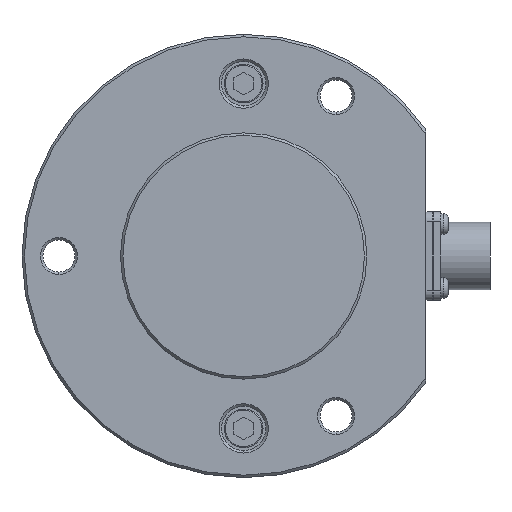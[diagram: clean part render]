
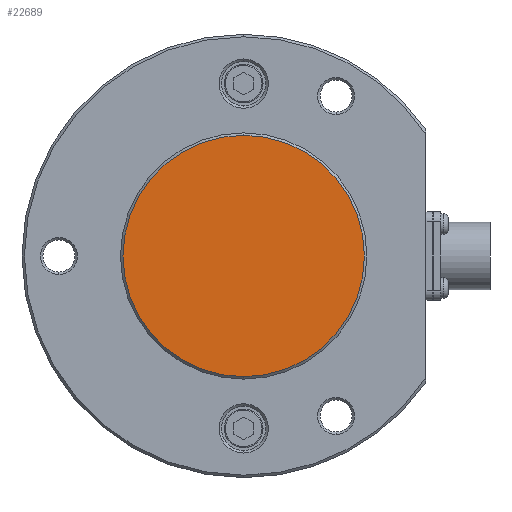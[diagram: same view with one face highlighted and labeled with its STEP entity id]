
A CAD part, front view. The second image highlights one B-rep face of the part: STEP entity #22689.
In plain terms, the highlighted planar face has unit normal (0, -1, 0).
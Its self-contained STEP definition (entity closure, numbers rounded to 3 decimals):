
#1421 = EDGE_LOOP ( 'NONE', ( #18087, #22413 ) ) ;
#3934 = AXIS2_PLACEMENT_3D ( 'NONE', #17234, #15627, #7865 ) ;
#4695 = AXIS2_PLACEMENT_3D ( 'NONE', #9428, #8071, #11276 ) ;
#7865 = DIRECTION ( 'NONE',  ( 0., 0., -1. ) ) ;
#8071 = DIRECTION ( 'NONE',  ( 0., -1., 0. ) ) ;
#8631 = DIRECTION ( 'NONE',  ( 0., -1., 0. ) ) ;
#8709 = VERTEX_POINT ( 'NONE', #13341 ) ;
#9428 = CARTESIAN_POINT ( 'NONE',  ( 0., -33., 0. ) ) ;
#11216 = CARTESIAN_POINT ( 'NONE',  ( 0., -33., 24.5 ) ) ;
#11276 = DIRECTION ( 'NONE',  ( 0., 0., -1. ) ) ;
#11798 = PLANE ( 'NONE',  #3934 ) ;
#13341 = CARTESIAN_POINT ( 'NONE',  ( 0., -33., -24.5 ) ) ;
#13734 = CIRCLE ( 'NONE', #15706, 24.5 ) ;
#13877 = EDGE_CURVE ( 'NONE', #8709, #21306, #15330, .T. ) ;
#15330 = CIRCLE ( 'NONE', #4695, 24.5 ) ;
#15627 = DIRECTION ( 'NONE',  ( 0., -1., 0. ) ) ;
#15706 = AXIS2_PLACEMENT_3D ( 'NONE', #21569, #8631, #16165 ) ;
#16165 = DIRECTION ( 'NONE',  ( 0., 0., -1. ) ) ;
#17234 = CARTESIAN_POINT ( 'NONE',  ( 0., -33., 0. ) ) ;
#17590 = FACE_OUTER_BOUND ( 'NONE', #1421, .T. ) ;
#18087 = ORIENTED_EDGE ( 'NONE', *, *, #19675, .T. ) ;
#19675 = EDGE_CURVE ( 'NONE', #21306, #8709, #13734, .T. ) ;
#21306 = VERTEX_POINT ( 'NONE', #11216 ) ;
#21569 = CARTESIAN_POINT ( 'NONE',  ( 0., -33., 0. ) ) ;
#22413 = ORIENTED_EDGE ( 'NONE', *, *, #13877, .T. ) ;
#22689 = ADVANCED_FACE ( 'NONE', ( #17590 ), #11798, .T. ) ;
